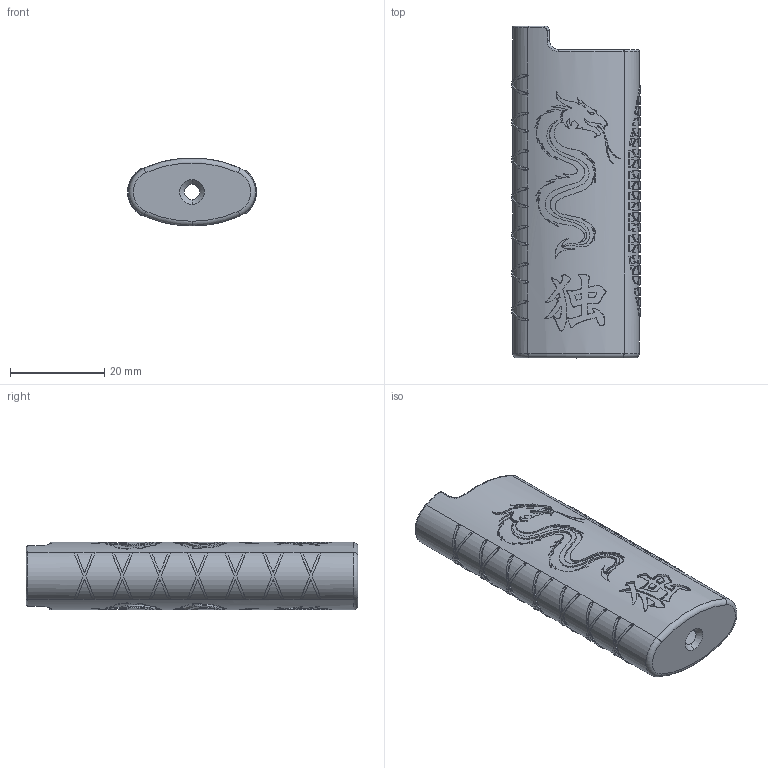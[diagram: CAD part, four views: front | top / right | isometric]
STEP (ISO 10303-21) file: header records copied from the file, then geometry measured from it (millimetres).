
FILE_DESCRIPTION (( 'STEP AP214' ), '1' );
FILE_NAME ('BIC cover.STEP', '2021-03-28T10:57:34', ( '' ), ( '' ), 'SwSTEP 2.0', 'SolidWorks 2020', '' );
FILE_SCHEMA (( 'AUTOMOTIVE_DESIGN' ));
Products named in the file (1): BIC cover
Bounding box: 27.3 x 70.4 x 14.4 mm (x, y, z)
Volume: 3588.2 mm3; surface area: 9887.3 mm2
Topology: 3 solids, 3 shells, 4981 faces, 14428 edges, 9599 vertices
Faces by surface type: bspline 3754, cylinder 752, plane 452, torus 19, cone 4
Entity records: 183514 total; most frequent: CARTESIAN_POINT 89549, ORIENTED_EDGE 28856, EDGE_CURVE 14428, B_SPLINE_CURVE_WITH_KNOTS 12376, VERTEX_POINT 9599, EDGE_LOOP 5129, ADVANCED_FACE 4981, FACE_OUTER_BOUND 4981
